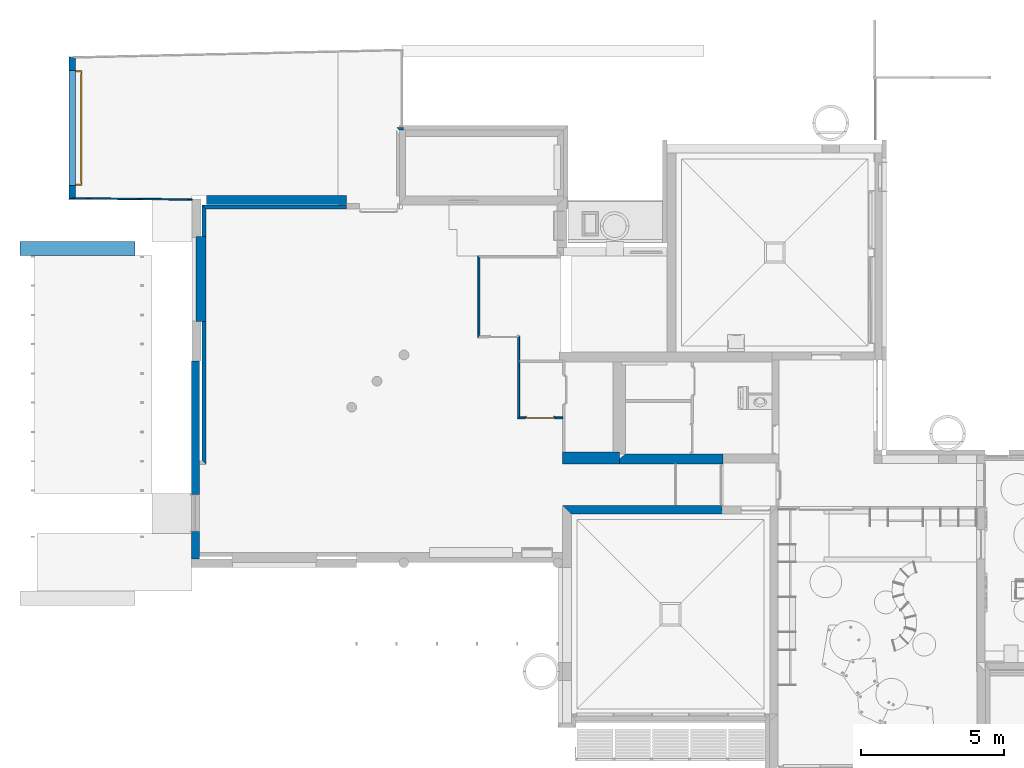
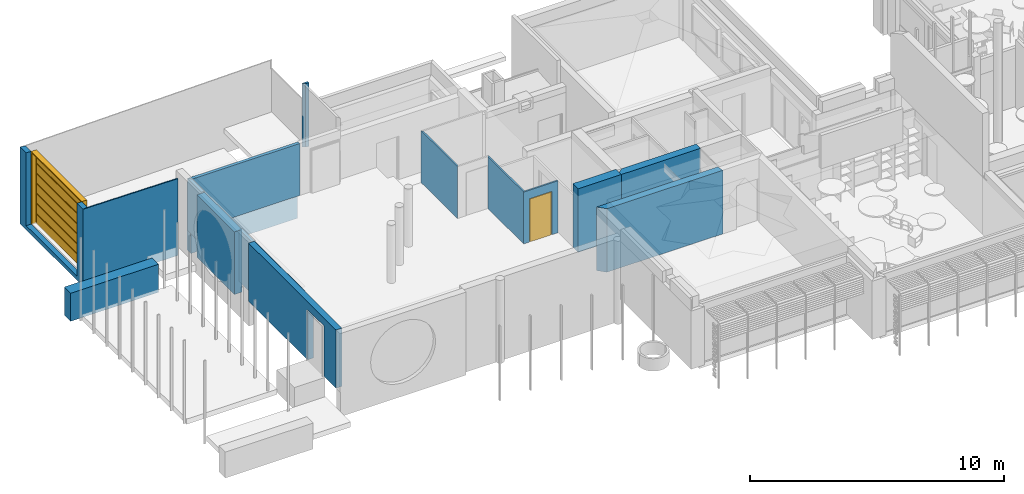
# One storey, part 21 of 64: 17 walls, 2 doors, 3 openings.
"""IFC2X3 building model written with IfcOpenShell, lengths in metres."""

import ifcopenshell
import ifcopenshell.guid

model = None  # the IFC model being written
_history = None  # IfcOwnerHistory: only IFC2X3 demands one
_inside = {}  # id of a spatial element -> (the spatial element, [elements in it])
_under = {}  # id of a project, library or spatial element -> (it, [spatial elements below it])
_declared = {}  # id of a project -> (the project, [libraries it declares])
_typed = {}  # id of a type object -> (the type object, [elements of that type])
_made_of = {}  # id of a material, layer set ... -> (it, [elements and type objects made of it])


def new_model(schema):
    """Start an empty IFC model of exactly this schema.

    Asked for "IFC4X3", IfcOpenShell would pick the latest addendum, in which some entities
    have other attributes; the version numbers below select the first issue.
    IFC2X3 requires an IfcOwnerHistory on every rooted entity: one is made here for all.
    """
    global model, _history
    if schema == "IFC4X3":
        model = ifcopenshell.file(schema_version=(4, 3, 0, 0))
    else:
        model = ifcopenshell.file(schema=schema)
    _inside.clear()
    _under.clear()
    _declared.clear()
    _typed.clear()
    _made_of.clear()
    _history = None
    if model.schema == "IFC2X3":
        org = make("IfcOrganization", Name="unknown")
        user = make(
            "IfcPersonAndOrganization",
            ThePerson=make("IfcPerson", FamilyName="unknown"),
            TheOrganization=org,
        )
        app = make(
            "IfcApplication",
            ApplicationDeveloper=org,
            Version="unknown",
            ApplicationFullName="unknown",
            ApplicationIdentifier="unknown",
        )
        _history = make(
            "IfcOwnerHistory",
            OwningUser=user,
            OwningApplication=app,
            ChangeAction="ADDED",
            CreationDate=0,
        )
    return model


def make(cls, **values):
    """One entity of the class cls with the attributes given. An attribute that is None is left unset."""
    return model.create_entity(
        cls, **{name: value for name, value in values.items() if value is not None}
    )


def entity(cls, *values):
    """Any entity or typed value of the class cls, its attributes in the order of the schema. None: left unset."""
    e = model.create_entity(cls)
    for i, value in enumerate(values):
        if value is not None:
            e[i] = value
    return e


def rooted(cls, **values):
    """An entity with a GlobalId (a new one), such as an element, a storey or a relation."""
    return make(cls, GlobalId=ifcopenshell.guid.new(), OwnerHistory=_history, **values)


def si_unit(unit_type, name, prefix=None):
    """IfcSIUnit, for example si_unit("LENGTHUNIT", "METRE", prefix="MILLI")."""
    return make("IfcSIUnit", UnitType=unit_type, Prefix=prefix, Name=name)


def converted_unit(unit_type, name, factor, base, dimensions=None, offset=None):
    """IfcConversionBasedUnit, such as the inch: factor (a typed value) times the base unit."""
    return make(
        "IfcConversionBasedUnit"
        if offset is None
        else "IfcConversionBasedUnitWithOffset",
        ConversionOffset=offset,
        Dimensions=None
        if dimensions is None
        else entity("IfcDimensionalExponents", *dimensions),
        UnitType=unit_type,
        Name=name,
        ConversionFactor=make(
            "IfcMeasureWithUnit", ValueComponent=factor, UnitComponent=base
        ),
    )


def derived_unit(unit_type, elements):
    """IfcDerivedUnit: a product of units, each with its exponent."""
    return make(
        "IfcDerivedUnit",
        Elements=[
            make("IfcDerivedUnitElement", Unit=unit, Exponent=power)
            for unit, power in elements
        ],
        UnitType=unit_type,
    )


def assignment(units):
    """IfcUnitAssignment: the units of a project."""
    return None if units is None else make("IfcUnitAssignment", Units=units)


def point(xyz):
    """IfcCartesianPoint."""
    return None if xyz is None else make("IfcCartesianPoint", Coordinates=xyz)


def direction(xyz):
    """IfcDirection."""
    return None if xyz is None else make("IfcDirection", DirectionRatios=xyz)


def frame(location, z_axis=None, x_axis=None):
    """IfcAxis2Placement3D, a coordinate frame: its origin and axes. An axis left out is left unset."""
    return make(
        "IfcAxis2Placement3D",
        Location=point(location),
        Axis=direction(z_axis),
        RefDirection=direction(x_axis),
    )


def frame_2d(location, x_axis=None):
    """IfcAxis2Placement2D, a coordinate frame in the plane: its origin and x axis."""
    return make(
        "IfcAxis2Placement2D", Location=point(location), RefDirection=direction(x_axis)
    )


def origin():
    """The frame at (0, 0, 0) with its axes left unset."""
    return frame((0.0, 0.0, 0.0))


def origin_2d_with_axis():
    """The frame at (0, 0) in the plane with the x axis (1, 0) written out."""
    return frame_2d((0.0, 0.0), x_axis=(1.0, 0.0))


def place(relative_to, where):
    """IfcLocalPlacement: puts the frame where relative to a parent placement (None: the world)."""
    return make(
        "IfcLocalPlacement", PlacementRelTo=relative_to, RelativePlacement=where
    )


def context(
    kind, dimensions, precision=None, world=None, true_north=None, identifier=None
):
    """IfcGeometricRepresentationContext, for example the 3D "Model" context."""
    return make(
        "IfcGeometricRepresentationContext",
        ContextIdentifier=identifier,
        ContextType=kind,
        CoordinateSpaceDimension=dimensions,
        Precision=precision,
        WorldCoordinateSystem=world,
        TrueNorth=true_north,
    )


def subcontext(parent, identifier, kind, view, scale=None):
    """IfcGeometricRepresentationSubContext, for example "Body" below "Model"."""
    return make(
        "IfcGeometricRepresentationSubContext",
        ContextIdentifier=identifier,
        ContextType=kind,
        ParentContext=parent,
        TargetScale=scale,
        TargetView=view,
    )


def project(units=None, contexts=None):
    """IfcProject with its units and contexts."""
    return rooted(
        "IfcProject",
        Name="project",
        RepresentationContexts=contexts,
        UnitsInContext=assignment(units),
    )


def spatial(cls, under=None, at=None, **own):
    """A site, building, storey or space (cls), placed at a placement, below another one or the project."""
    s = rooted(cls, ObjectPlacement=at, **own)
    if under is not None:
        _under.setdefault(under.id(), (under, []))[1].append(s)
    return s


def polyline(points):
    """IfcPolyline through the points."""
    return make("IfcPolyline", Points=[point(p) for p in points])


def profile(cls, at=None, kind="AREA", **sizes):
    """A parametric profile (cls). Its sizes go by their IFC names, for example OverallWidth=200.0."""
    return make(cls, ProfileType=kind, Position=at, **sizes)


def rectangle(**sizes):
    """IfcRectangleProfileDef."""
    return profile("IfcRectangleProfileDef", **sizes)


def outline(outer, holes=None, kind="AREA"):
    """IfcArbitraryClosedProfileDef: a profile drawn as a closed curve; with holes, ...WithVoids."""
    if holes is None:
        return make("IfcArbitraryClosedProfileDef", ProfileType=kind, OuterCurve=outer)
    return make(
        "IfcArbitraryProfileDefWithVoids",
        ProfileType=kind,
        OuterCurve=outer,
        InnerCurves=holes,
    )


def extrude(swept, where, along, depth):
    """IfcExtrudedAreaSolid: the profile swept, set in the frame where, extruded along a direction by depth."""
    return make(
        "IfcExtrudedAreaSolid",
        SweptArea=swept,
        Position=where,
        ExtrudedDirection=direction(along),
        Depth=depth,
    )


def faces_of(points, faces, orient=None, outer=None):
    """IfcFace entities. A face is a list of loops; a loop is a list of indices into points, from 0.

    orient and outer hold one flag for each loop. By default every Orientation is true, the
    first loop of a face is its IfcFaceOuterBound and the others are IfcFaceBound.
    """
    made = []
    for i, loops in enumerate(faces):
        bounds = []
        for j, loop in enumerate(loops):
            is_outer = j == 0 if outer is None else outer[i][j]
            bounds.append(
                make(
                    "IfcFaceOuterBound" if is_outer else "IfcFaceBound",
                    Bound=make("IfcPolyLoop", Polygon=[points[k] for k in loop]),
                    Orientation=True if orient is None else orient[i][j],
                )
            )
        made.append(make("IfcFace", Bounds=bounds))
    return made


def faceted_brep(points, faces, orient=None, outer=None, voids=None):
    """IfcFacetedBrep: a solid bounded by flat faces; with voids (closed shells), ...WithVoids."""
    shared = [point(p) for p in points]
    hull = make("IfcClosedShell", CfsFaces=faces_of(shared, faces, orient, outer))
    if voids is None:
        return make("IfcFacetedBrep", Outer=hull)
    return make(
        "IfcFacetedBrepWithVoids",
        Outer=hull,
        Voids=[
            make(cls, CfsFaces=faces_of(shared, fs, o, b)) for cls, fs, o, b in voids
        ],
    )


def shape(context_of_items, identifier, shape_type, items):
    """IfcShapeRepresentation: the items that make up one representation, for example the "Body"."""
    return make(
        "IfcShapeRepresentation",
        ContextOfItems=context_of_items,
        RepresentationIdentifier=identifier,
        RepresentationType=shape_type,
        Items=items,
    )


def source(mapping_origin, context_of_items, identifier, shape_type, items):
    """IfcRepresentationMap: a shape defined once, which mapped items show again and again."""
    return make(
        "IfcRepresentationMap",
        MappingOrigin=mapping_origin,
        MappedRepresentation=shape(context_of_items, identifier, shape_type, items),
    )


def transform(
    local_origin,
    x_axis=None,
    y_axis=None,
    z_axis=None,
    scale=None,
    scale2=None,
    scale3=None,
    uniform=True,
):
    """IfcCartesianTransformationOperator3D, or its non-uniform kind. x_axis, y_axis, z_axis: its Axis1, 2, 3."""
    if uniform:
        return make(
            "IfcCartesianTransformationOperator3D",
            Axis1=direction(x_axis),
            Axis2=direction(y_axis),
            LocalOrigin=point(local_origin),
            Scale=scale,
            Axis3=direction(z_axis),
        )
    return make(
        "IfcCartesianTransformationOperator3DnonUniform",
        Axis1=direction(x_axis),
        Axis2=direction(y_axis),
        LocalOrigin=point(local_origin),
        Scale=scale,
        Axis3=direction(z_axis),
        Scale2=scale2,
        Scale3=scale3,
    )


def mapped(mapping_source, mapping_target):
    """IfcMappedItem: shows the shape of a source again, moved by a transform."""
    return make(
        "IfcMappedItem", MappingSource=mapping_source, MappingTarget=mapping_target
    )


def material(Name=None, Category=None):
    """IfcMaterial."""
    return make("IfcMaterial", Name=Name, Category=Category)


def layer(
    of_material, thickness, ventilated=None, Name=None, Category=None, Priority=None
):
    """IfcMaterialLayer: one layer of a wall or slab, of a material (None: an air gap)."""
    return make(
        "IfcMaterialLayer",
        Material=of_material,
        LayerThickness=thickness,
        IsVentilated=ventilated,
        Name=Name,
        Category=Category,
        Priority=Priority,
    )


def layer_set(layers, Name=None):
    """IfcMaterialLayerSet."""
    return make("IfcMaterialLayerSet", MaterialLayers=layers, LayerSetName=Name)


def layer_usage(for_layer_set, set_direction, sense, offset, extent=None):
    """IfcMaterialLayerSetUsage: how a layer set lies in its element."""
    return make(
        "IfcMaterialLayerSetUsage",
        ForLayerSet=for_layer_set,
        LayerSetDirection=set_direction,
        DirectionSense=sense,
        OffsetFromReferenceLine=offset,
        ReferenceExtent=extent,
    )


def made_of(thing, what):
    """Note that an element or type object is made of a material, layer set ...; save() writes the relation."""
    if what is not None:
        _made_of.setdefault(what.id(), (what, []))[1].append(thing)
    return thing


def type_object(cls, material=None, **own):
    """A type object (cls), such as IfcWallType, which elements share."""
    return made_of(rooted(cls, **own), material)


def type_shapes(of_type, sources):
    """Give a type object the sources (RepresentationMaps) that its elements show as mapped items."""
    of_type.RepresentationMaps = sources


def element(
    cls,
    number,
    at=None,
    inside=None,
    cuts=None,
    type_object=None,
    material=None,
    context=None,
    identifier="Body",
    shape_type=None,
    held_by="IfcProductDefinitionShape",
    body=None,
    shapes=None,
    **own,
):
    """One element of the class cls, such as IfcWall. Its Tag is "e" and its number.

    at: its placement. inside: the storey or other place that contains it. cuts: it is an
    opening in that element (IfcRelVoidsElement). A single representation is given by context,
    identifier, shape_type and body (its items); several are given by shapes. held_by: the class
    of the entity that holds the representations. save() writes the other relations.
    """
    e = rooted(cls, Tag="e%d" % number, ObjectPlacement=at, **own)
    if body is not None:
        shapes = [shape(context, identifier, shape_type, body)]
    if shapes is not None:
        e.Representation = make(held_by, Representations=shapes)
    if inside is not None:
        _inside.setdefault(inside.id(), (inside, []))[1].append(e)
    if cuts is not None:
        rooted(
            "IfcRelVoidsElement", RelatingBuildingElement=cuts, RelatedOpeningElement=e
        )
    if type_object is not None:
        _typed.setdefault(type_object.id(), (type_object, []))[1].append(e)
    return made_of(e, material)


def fill(opening, filler):
    """IfcRelFillsElement: the door or window that sits in an opening."""
    return rooted(
        "IfcRelFillsElement",
        RelatingOpeningElement=opening,
        RelatedBuildingElement=filler,
    )


def aggregate(whole, parts):
    """IfcRelAggregates: a whole, such as a stair, and the parts it consists of."""
    return rooted("IfcRelAggregates", RelatingObject=whole, RelatedObjects=parts)


def save(model, path):
    """Write the relations noted so far, then the file.

    IfcRelAggregates (storeys below a building ...), IfcRelContainedInSpatialStructure (elements
    in a storey), IfcRelDefinesByType, IfcRelAssociatesMaterial and IfcRelDeclares: one each for
    every whole, place, type object, material and project.
    """
    for whole, parts in _under.values():
        aggregate(whole, parts)
    for where, things in _inside.values():
        rooted(
            "IfcRelContainedInSpatialStructure",
            RelatedElements=things,
            RelatingStructure=where,
        )
    for kind, things in _typed.values():
        rooted("IfcRelDefinesByType", RelatedObjects=things, RelatingType=kind)
    for what, things in _made_of.values():
        rooted("IfcRelAssociatesMaterial", RelatedObjects=things, RelatingMaterial=what)
    for by, libraries in _declared.values():
        rooted("IfcRelDeclares", RelatingContext=by, RelatedDefinitions=libraries)
    model.write(path)


model = new_model("IFC2X3")

# Units and contexts
model_context = context("Model", 3, precision=1e-05, world=origin(), true_north=direction((6.123031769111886e-17, 1.0)))
body_context = subcontext(model_context, "Body", "Model", "MODEL_VIEW")
ifc_project = project(units=[si_unit("LENGTHUNIT", "METRE"), si_unit("AREAUNIT", "SQUARE_METRE"), si_unit("VOLUMEUNIT", "CUBIC_METRE"), converted_unit("PLANEANGLEUNIT", "DEGREE", entity("IfcRatioMeasure", 0.017453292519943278), si_unit("PLANEANGLEUNIT", "RADIAN"), dimensions=[0, 0, 0, 0, 0, 0, 0]), si_unit("MASSUNIT", "GRAM", prefix="KILO"), derived_unit("MASSDENSITYUNIT", [(si_unit("MASSUNIT", "GRAM", prefix="KILO"), 1), (si_unit("LENGTHUNIT", "METRE"), -3)]), derived_unit("MOMENTOFINERTIAUNIT", [(si_unit("LENGTHUNIT", "METRE"), 4)]), si_unit("TIMEUNIT", "SECOND"), si_unit("FREQUENCYUNIT", "HERTZ"), si_unit("THERMODYNAMICTEMPERATUREUNIT", "DEGREE_CELSIUS"), derived_unit("THERMALTRANSMITTANCEUNIT", [(si_unit("MASSUNIT", "GRAM", prefix="KILO"), 1), (si_unit("THERMODYNAMICTEMPERATUREUNIT", "KELVIN"), -1), (si_unit("TIMEUNIT", "SECOND"), -3)]), derived_unit("THERMALCONDUCTANCEUNIT", [(si_unit("MASSUNIT", "GRAM", prefix="KILO"), 1), (si_unit("LENGTHUNIT", "METRE"), 1), (si_unit("THERMODYNAMICTEMPERATUREUNIT", "KELVIN"), -1), (si_unit("TIMEUNIT", "SECOND"), -3)]), derived_unit("VOLUMETRICFLOWRATEUNIT", [(si_unit("LENGTHUNIT", "METRE"), 3), (si_unit("TIMEUNIT", "SECOND"), -1)]), derived_unit("MASSFLOWRATEUNIT", [(si_unit("MASSUNIT", "GRAM", prefix="KILO"), 1), (si_unit("TIMEUNIT", "SECOND"), -1)]), derived_unit("ROTATIONALFREQUENCYUNIT", [(si_unit("TIMEUNIT", "SECOND"), -1)]), si_unit("ELECTRICCURRENTUNIT", "AMPERE"), si_unit("ELECTRICVOLTAGEUNIT", "VOLT"), si_unit("POWERUNIT", "WATT"), si_unit("FORCEUNIT", "NEWTON", prefix="KILO"), si_unit("ILLUMINANCEUNIT", "LUX"), si_unit("LUMINOUSFLUXUNIT", "LUMEN"), si_unit("LUMINOUSINTENSITYUNIT", "CANDELA"), derived_unit("USERDEFINED", [(si_unit("MASSUNIT", "GRAM", prefix="KILO"), -1), (si_unit("LENGTHUNIT", "METRE"), -2), (si_unit("TIMEUNIT", "SECOND"), 3), (si_unit("LUMINOUSFLUXUNIT", "LUMEN"), 1)]), derived_unit("USERDEFINED", [(si_unit("MASSUNIT", "GRAM", prefix="KILO"), 1), (si_unit("LENGTHUNIT", "METRE"), 3), (si_unit("TIMEUNIT", "SECOND"), -3), (si_unit("ELECTRICCURRENTUNIT", "AMPERE"), -2)]), derived_unit("USERDEFINED", [(si_unit("LENGTHUNIT", "METRE"), 2), (si_unit("TIMEUNIT", "SECOND"), -2)]), derived_unit("SOUNDPOWERUNIT", [(si_unit("MASSUNIT", "GRAM", prefix="KILO"), 1), (si_unit("LENGTHUNIT", "METRE"), 2), (si_unit("TIMEUNIT", "SECOND"), -3)]), derived_unit("SOUNDPRESSUREUNIT", [(si_unit("MASSUNIT", "GRAM", prefix="KILO"), 1), (si_unit("LENGTHUNIT", "METRE"), -1), (si_unit("TIMEUNIT", "SECOND"), -2)]), derived_unit("LINEARVELOCITYUNIT", [(si_unit("LENGTHUNIT", "METRE"), 1), (si_unit("TIMEUNIT", "SECOND"), -1)]), si_unit("PRESSUREUNIT", "PASCAL"), derived_unit("USERDEFINED", [(si_unit("LENGTHUNIT", "METRE"), -2), (si_unit("MASSUNIT", "GRAM", prefix="KILO"), 1), (si_unit("TIMEUNIT", "SECOND"), -2)]), derived_unit("LINEARFORCEUNIT", [(si_unit("MASSUNIT", "GRAM", prefix="KILO"), 1), (si_unit("LENGTHUNIT", "METRE"), 1), (si_unit("TIMEUNIT", "SECOND"), -2), (si_unit("LENGTHUNIT", "METRE"), -1)]), derived_unit("PLANARFORCEUNIT", [(si_unit("MASSUNIT", "GRAM", prefix="KILO"), 1), (si_unit("LENGTHUNIT", "METRE"), 1), (si_unit("TIMEUNIT", "SECOND"), -2), (si_unit("LENGTHUNIT", "METRE"), -2)]), derived_unit("SPECIFICHEATCAPACITYUNIT", [(si_unit("LENGTHUNIT", "METRE"), 2), (si_unit("TIMEUNIT", "SECOND"), -2), (si_unit("THERMODYNAMICTEMPERATUREUNIT", "KELVIN"), -1)]), derived_unit("VAPORPERMEABILITYUNIT", [(si_unit("TIMEUNIT", "SECOND"), 1), (si_unit("LENGTHUNIT", "METRE"), -1)]), derived_unit("DYNAMICVISCOSITYUNIT", [(si_unit("MASSUNIT", "GRAM", prefix="KILO"), 1), (si_unit("LENGTHUNIT", "METRE"), -1), (si_unit("TIMEUNIT", "SECOND"), -1)]), derived_unit("THERMALEXPANSIONCOEFFICIENTUNIT", [(si_unit("THERMODYNAMICTEMPERATUREUNIT", "KELVIN"), -1)])], contexts=[model_context])

# Site, building, storey
site_placement = place(None, origin())
site = spatial("IfcSite", under=ifc_project, at=site_placement, Name="Default", CompositionType="ELEMENT")
building_placement = place(site_placement, origin())
building = spatial("IfcBuilding", under=site, at=building_placement, CompositionType="ELEMENT")
storey_placement = place(building_placement, origin())
storey = spatial("IfcBuildingStorey", under=building, at=storey_placement, Name="REZ-DE-CHAUSSÉE", CompositionType="ELEMENT", Elevation=0.0)

# Walls
ifc_material_1 = material(Name="Appareillage - Pierre taillé")
ifc_layer_1 = layer(ifc_material_1, 0.29999999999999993)
ifc_layer_set_1 = layer_set([ifc_layer_1], Name="Mur de base:Struct. - Pierre 300")
ifc_layer_usage_1 = layer_usage(ifc_layer_set_1, "AXIS2", "NEGATIVE", 0.14999999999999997)
wall_type_1 = type_object("IfcWallType", Name="Mur de base:Struct. - Pierre 300", PredefinedType="STANDARD", material=ifc_layer_set_1)
wall_1_placement = place(storey_placement, frame((90.2507522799, 24.1872094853, -1.1999999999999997)))
element("IfcWallStandardCase", 1, at=wall_1_placement, inside=storey, type_object=wall_type_1, material=ifc_layer_usage_1, Name="MurExt-009", ObjectType="Mur de base:Struct. - Pierre 300", context=body_context, shape_type="SweptSolid", body=[
    extrude(rectangle(XDim=4.869999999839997, YDim=0.3000000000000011, at=frame_2d((2.4349999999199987, 0.0), x_axis=(-1.0, 0.0))), origin(), (0.0, 0.0, 1.0), 3.27),
])
ifc_layer_2 = layer(ifc_material_1, 0.31)
ifc_layer_set_2 = layer_set([ifc_layer_2], Name="Mur de base:Struct. - Pierre 310")
ifc_layer_usage_2 = layer_usage(ifc_layer_set_2, "AXIS2", "NEGATIVE", 0.155)
wall_type_2 = type_object("IfcWallType", Name="Mur de base:Struct. - Pierre 310", PredefinedType="STANDARD", material=ifc_layer_set_2)
wall_2_placement = place(storey_placement, frame((102.66075227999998, 13.3922094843, 0.0)))
element("IfcWallStandardCase", 2, at=wall_2_placement, inside=storey, type_object=wall_type_2, material=ifc_layer_usage_2, Name="MurExt-006", ObjectType="Mur de base:Struct. - Pierre 310", context=body_context, shape_type="SweptSolid", body=[
    extrude(outline(polyline([(5.579999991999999, -0.15500000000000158), (5.52999999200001, 0.15499999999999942), (0.0, 0.15499999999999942), (0.3000000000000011, -0.15500000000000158), (5.579999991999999, -0.15500000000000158)])), origin(), (0.0, 0.0, 1.0), 3.06),
])
ifc_material_2 = material(Name="Bois - Pin granuleux horizontal")
ifc_layer_3 = layer(ifc_material_2, 0.031999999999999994)
ifc_material_3 = material(Name="Air - Vide d'air")
ifc_layer_4 = layer(ifc_material_3, 0.054)
ifc_material_4 = material(Name="Bois - Panneaux de particules")
ifc_layer_5 = layer(ifc_material_4, 0.022)
ifc_material_5 = material(Name="Isolation - Fibre de verre")
ifc_layer_6 = layer(ifc_material_5, 0.12)
ifc_layer_7 = layer(ifc_material_4, 0.022)
ifc_layer_8 = layer(ifc_material_5, 0.08699999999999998)
ifc_material_6 = material(Name="Plâtre - Plaques de plâtre")
ifc_layer_9 = layer(ifc_material_6, 0.013)
ifc_layer_set_3 = layer_set([ifc_layer_3, ifc_layer_4, ifc_layer_5, ifc_layer_6, ifc_layer_7, ifc_layer_8, ifc_layer_9], Name="Mur de base:ABA MOB ITI bardage 350")
ifc_layer_usage_3 = layer_usage(ifc_layer_set_3, "AXIS2", "NEGATIVE", 0.17500000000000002)
wall_type_3 = type_object("IfcWallType", Name="Mur de base:ABA MOB ITI bardage 350", PredefinedType="STANDARD", material=ifc_layer_set_3)
for number, where, z_axis, x_axis, name in (
    (3, (90.05575227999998, 19.947209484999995, -0.5599999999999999), (0.0, 0.0, 1.0), (0.0, 1.0, 0.0), "MurExt-005"),
    (4, (90.05575227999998, 19.947209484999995, -0.5599999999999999), (0.0, 0.0, 1.0), (0.0, 1.0, 0.0), "MurExt-005"),
):
    element("IfcWallStandardCase", number, at=place(storey_placement, frame(where, z_axis=z_axis, x_axis=x_axis)), inside=storey, type_object=wall_type_3, material=ifc_layer_usage_3, Name=name, ObjectType="Mur de base:ABA MOB ITI bardage 350", context=body_context, shape_type="SweptSolid", body=[
        extrude(rectangle(XDim=2.9600000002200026, YDim=0.34999999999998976, at=frame_2d((1.4800000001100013, 0.0), x_axis=(-1.0, 0.0))), origin(), (0.0, 0.0, 1.0), 3.01),
    ])

# Wall, opening
ifc_layer_10 = layer(ifc_material_2, 0.02)
ifc_layer_11 = layer(ifc_material_4, 0.0125)
ifc_layer_12 = layer(ifc_material_5, 0.145)
ifc_layer_13 = layer(ifc_material_4, 0.0125)
ifc_layer_14 = layer(ifc_material_5, 0.067)
ifc_layer_15 = layer(ifc_material_6, 0.013)
ifc_layer_set_4 = layer_set([ifc_layer_10, ifc_layer_11, ifc_layer_12, ifc_layer_13, ifc_layer_14, ifc_layer_15], Name="Mur de base:ABA MOB ITI costière 270")
ifc_layer_usage_4 = layer_usage(ifc_layer_set_4, "AXIS2", "NEGATIVE", 0.13499999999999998)
wall_type_4 = type_object("IfcWallType", Name="Mur de base:ABA MOB ITI costière 270", PredefinedType="STANDARD", material=ifc_layer_set_4)
wall_3_placement = place(storey_placement, frame((89.8657522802, 11.677209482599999, 0.0), z_axis=(0.0, 0.0, 1.0), x_axis=(0.0, 1.0, 0.0)))
wall_3 = element("IfcWallStandardCase", 5, at=wall_3_placement, inside=storey, type_object=wall_type_4, material=ifc_layer_usage_4, Name="MurExt-007", ObjectType="Mur de base:ABA MOB ITI costière 270", context=body_context, shape_type="SweptSolid", body=[
    extrude(rectangle(XDim=6.9000000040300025, YDim=0.2700000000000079, at=frame_2d((3.4500000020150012, 0.0), x_axis=(-1.0, 0.0))), origin(), (0.0, 0.0, 1.0), 2.8),
])
opening_1_placement = place(wall_3_placement, frame((-11.677209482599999, 89.8657522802, 0.0), z_axis=(0.0, 0.0, 1.0), x_axis=(0.0, -1.0, 0.0)))
element("IfcOpeningElement", 6, at=opening_1_placement, cuts=wall_3, Name="MurExt-007", ObjectType="Opening", context=body_context, shape_type="SweptSolid", body=[
    extrude(rectangle(XDim=2.4199999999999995, YDim=1.2900000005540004, at=origin_2d_with_axis()), frame((90.2192522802, 13.28220948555, 1.2099999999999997), z_axis=(-1.0, 0.0, 0.0), x_axis=(0.0, 0.0, -1.0)), (0.0, 0.0, 1.0), 0.7069999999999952),
])

# Walls
ifc_layer_16 = layer(ifc_material_1, 0.34)
ifc_layer_set_5 = layer_set([ifc_layer_16], Name="Mur de base:Struct. - Pierre 340")
ifc_layer_usage_5 = layer_usage(ifc_layer_set_5, "AXIS2", "NEGATIVE", 0.17)
wall_type_5 = type_object("IfcWallType", Name="Mur de base:Struct. - Pierre 340", PredefinedType="STANDARD", material=ifc_layer_set_5)
wall_4_placement = place(storey_placement, frame((104.42075227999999, 15.157209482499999, 0.0)))
element("IfcWallStandardCase", 7, at=wall_4_placement, inside=storey, type_object=wall_type_5, material=ifc_layer_usage_5, Name="MurExt-003", ObjectType="Mur de base:Struct. - Pierre 340", context=body_context, shape_type="SweptSolid", body=[
    extrude(outline(polyline([(3.819999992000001, -0.17000000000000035), (3.819999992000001, -0.14000000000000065), (3.819999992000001, 0.17000000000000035), (2.7900000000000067, 0.17000000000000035), (2.7100000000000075, 0.17000000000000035), (0.4200000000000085, 0.17000000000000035), (0.0, -0.17000000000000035), (3.819999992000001, -0.17000000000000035)])), origin(), (0.0, 0.0, 1.0), 3.06),
])
ifc_layer_17 = layer(ifc_material_1, 0.41999999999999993)
ifc_layer_set_6 = layer_set([ifc_layer_17], Name="Mur de base:Struct. - Pierre 420")
ifc_layer_usage_6 = layer_usage(ifc_layer_set_6, "AXIS2", "NEGATIVE", 0.20999999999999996)
wall_type_6 = type_object("IfcWallType", Name="Mur de base:Struct. - Pierre 420", PredefinedType="STANDARD", material=ifc_layer_set_6)
wall_5_placement = place(storey_placement, frame((104.63075228, 15.1972094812, 0.0), z_axis=(0.0, 0.0, 1.0), x_axis=(-1.0, 0.0, 0.0)))
element("IfcWallStandardCase", 8, at=wall_5_placement, inside=storey, type_object=wall_type_6, material=ifc_layer_usage_6, Name="MurExt-003", ObjectType="Mur de base:Struct. - Pierre 420", context=body_context, shape_type="SweptSolid", body=[
    extrude(rectangle(XDim=1.9700000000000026, YDim=0.4199999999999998, at=frame_2d((0.9850000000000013, 0.0), x_axis=(-1.0, 0.0))), origin(), (0.0, 0.0, 1.0), 3.06),
])
ifc_material_7 = material(Name="Métal - Fer")
ifc_layer_18 = layer(ifc_material_7, 0.05)
ifc_layer_set_7 = layer_set([ifc_layer_18], Name="Mur de base:Métal - Fer 50")
ifc_layer_usage_7 = layer_usage(ifc_layer_set_7, "AXIS2", "NEGATIVE", 0.025)
wall_type_7 = type_object("IfcWallType", Name="Mur de base:Métal - Fer 50", PredefinedType="STANDARD", material=ifc_layer_set_7)
wall_6_placement = place(storey_placement, frame((89.75099796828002, 24.202208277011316, -1.2), z_axis=(0.0, 0.0, 1.0), x_axis=(-0.9999517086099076, 0.009827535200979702, 0.0)))
element("IfcWallStandardCase", 9, at=wall_6_placement, inside=storey, type_object=wall_type_7, material=ifc_layer_usage_7, Name="MurExt-011", ObjectType="Mur de base:Métal - Fer 50", context=body_context, shape_type="SweptSolid", body=[
    extrude(outline(polyline([(1.9273157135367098, -0.44544477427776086), (2.162218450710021, -0.4454447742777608), (-2.0396858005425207, 0.4699241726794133), (-2.0498483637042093, 0.42096537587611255), (1.9273157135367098, -0.44544477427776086)])), frame((2.0929696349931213, 0.0, 0.0), z_axis=(0.0, 0.0, 1.0), x_axis=(0.9770840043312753, 0.21285405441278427, 0.0)), (0.0, 0.0, 1.0), 3.6999999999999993),
])

# Wall, opening, door
ifc_layer_19 = layer(ifc_material_1, 0.23)
ifc_layer_set_8 = layer_set([ifc_layer_19], Name="Mur de base:Struct. - Pierre 230")
ifc_layer_usage_8 = layer_usage(ifc_layer_set_8, "AXIS2", "NEGATIVE", 0.115)
wall_type_8 = type_object("IfcWallType", Name="Mur de base:Struct. - Pierre 230", PredefinedType="STANDARD", material=ifc_layer_set_8)
wall_7_placement = place(storey_placement, frame((85.5655065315, 24.219472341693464, -1.2), z_axis=(0.0, 0.0, 1.0), x_axis=(0.0, 1.0, 0.0)))
wall_7 = element("IfcWallStandardCase", 10, at=wall_7_placement, inside=storey, type_object=wall_type_8, material=ifc_layer_usage_8, Name="MurExt-012", ObjectType="Mur de base:Struct. - Pierre 230", context=body_context, shape_type="SweptSolid", body=[
    extrude(outline(polyline([(4.917718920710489, -0.11499999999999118), (4.96255024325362, 0.11500000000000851), (0.0, 0.11500000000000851), (0.04774197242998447, -0.11499999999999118), (4.917718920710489, -0.11499999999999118)])), origin(), (0.0, 0.0, 1.0), 3.7),
])
opening_2_placement = place(wall_7_placement, frame((0.47819942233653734, 0.35190000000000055, 0.19999999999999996), z_axis=(0.0, 0.0, 1.0), x_axis=(0.0, -1.0, 0.0)))
opening_2 = element("IfcOpeningElement", 11, at=opening_2_placement, cuts=wall_7, Name="MurExt-012", ObjectType="Opening", context=body_context, shape_type="Brep", body=[
    faceted_brep([(0.0, 0.0, 0.0), (0.0, 0.0, 3.4999999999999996), (0.0, 4.0, 3.4999999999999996), (0.0, 4.0, 0.0), (0.703799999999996, 0.0, 0.0), (0.703799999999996, 4.0, 0.0), (0.703799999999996, 4.0, 3.4999999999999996), (0.703799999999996, 0.0, 3.4999999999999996), (0.6923499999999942, 0.0, 3.4999999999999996), (0.6923499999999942, 0.0, 7.0), (0.646449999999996, 0.0, 7.0), (0.646449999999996, 0.0, 3.4999999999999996), (0.646449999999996, 4.0, 3.4999999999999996), (0.646449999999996, 4.0, 7.0), (0.6923499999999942, 4.0, 7.0), (0.6923499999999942, 4.0, 3.4999999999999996)], [[[0, 1, 2, 3]], [[4, 5, 6, 7]], [[0, 4, 7, 8, 9, 10, 11, 1]], [[1, 11, 12, 2]], [[2, 12, 13, 14, 15, 6, 5, 3]], [[3, 5, 4, 0]], [[12, 11, 10, 13]], [[8, 15, 14, 9]], [[10, 9, 14, 13]], [[6, 15, 8, 7]]]),
])
ifc_material_8 = material(Name="Peinture - Anthracite")
door_style_1 = type_object("IfcDoorStyle", Name="Por-002", ConstructionType="NOTDEFINED", OperationType="ROLLINGUP", ParameterTakesPrecedence=False, Sizeable=False, material=ifc_material_8)
shared_shape_1 = source(origin(), body_context, "Body", "SweptSolid", [
    extrude(rectangle(XDim=0.019999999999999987, YDim=3.8, at=origin_2d_with_axis()), frame((2.0, 0.6513999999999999, 2.96428571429), z_axis=(0.0, 0.0, 1.0), x_axis=(0.0, 1.0, 0.0)), (0.0, 0.0, 1.0), 0.43571428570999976),
    extrude(rectangle(XDim=0.019999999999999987, YDim=3.8, at=origin_2d_with_axis()), frame((2.0, 0.6513999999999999, 2.47857142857), z_axis=(0.0, 0.0, 1.0), x_axis=(0.0, 1.0, 0.0)), (0.0, 0.0, 1.0), 0.43571428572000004),
    extrude(rectangle(XDim=0.019999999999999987, YDim=3.8, at=origin_2d_with_axis()), frame((2.0, 0.6513999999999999, 1.99285714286), z_axis=(0.0, 0.0, 1.0), x_axis=(0.0, 1.0, 0.0)), (0.0, 0.0, 1.0), 0.43571428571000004),
    extrude(rectangle(XDim=0.019999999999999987, YDim=3.8, at=origin_2d_with_axis()), frame((2.0, 0.6513999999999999, 1.50714285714), z_axis=(0.0, 0.0, 1.0), x_axis=(0.0, 1.0, 0.0)), (0.0, 0.0, 1.0), 0.43571428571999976),
    extrude(rectangle(XDim=0.019999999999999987, YDim=3.8, at=origin_2d_with_axis()), frame((2.0, 0.6513999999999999, 1.02142857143), z_axis=(0.0, 0.0, 1.0), x_axis=(0.0, 1.0, 0.0)), (0.0, 0.0, 1.0), 0.43571428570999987),
    extrude(rectangle(XDim=0.019999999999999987, YDim=3.8, at=origin_2d_with_axis()), frame((2.0, 0.6513999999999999, 0.535714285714), z_axis=(0.0, 0.0, 1.0), x_axis=(0.0, 1.0, 0.0)), (0.0, 0.0, 1.0), 0.4357142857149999),
    extrude(rectangle(XDim=0.019999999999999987, YDim=3.8, at=origin_2d_with_axis()), frame((2.0, 0.6513999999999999, 0.050000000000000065), z_axis=(0.0, 0.0, 1.0), x_axis=(0.0, 1.0, 0.0)), (0.0, 0.0, 1.0), 0.43571428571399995),
    extrude(rectangle(XDim=0.030000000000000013, YDim=3.9, at=frame_2d((-3.382710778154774e-17, 0.0), x_axis=(1.0, 0.0))), frame((2.0, 0.6764, 0.0), z_axis=(0.0, 0.0, 1.0), x_axis=(0.0, 1.0, 0.0)), (0.0, 0.0, 1.0), 3.4499999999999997),
    extrude(rectangle(XDim=0.05, YDim=3.9999999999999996, at=frame_2d((0.008333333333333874, 0.0), x_axis=(1.0, 0.0))), frame((2.0, 0.46689999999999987, 3.466666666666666), z_axis=(0.0, 1.0, 0.0), x_axis=(0.0, 0.0, 1.0)), (0.0, 0.0, 1.0), 0.22999999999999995),
    extrude(rectangle(XDim=0.05, YDim=0.22999999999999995, at=frame_2d((-2.706168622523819e-16, 0.0), x_axis=(1.0, 0.0))), frame((3.975000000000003, 0.5818999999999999, 0.0), z_axis=(0.0, 0.0, 1.0), x_axis=(-1.0, 0.0, 0.0)), (0.0, 0.0, 1.0), 3.4499999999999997),
    extrude(rectangle(XDim=0.05, YDim=0.22999999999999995, at=frame_2d((2.706168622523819e-16, 0.0), x_axis=(1.0, 0.0))), frame((0.025000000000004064, 0.5818999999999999, 0.0), z_axis=(0.0, 0.0, 1.0), x_axis=(-1.0, 0.0, 0.0)), (0.0, 0.0, 1.0), 3.4499999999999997),
])
type_shapes(door_style_1, [shared_shape_1])
door_1_placement = place(opening_2_placement, frame((0.0, 4.0, 0.0), z_axis=(0.0, 0.0, 1.0), x_axis=(0.0, -1.0, 0.0)))
door_1 = element("IfcDoor", 12, at=door_1_placement, inside=storey, type_object=door_style_1, material=ifc_material_8, Name="Por-002 17063:Por-002 17063", ObjectType="Por-002 17063:Por-002 17063", OverallHeight=3.5000000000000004, OverallWidth=4.0000000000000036, context=body_context, shape_type="MappedRepresentation", body=[
    mapped(shared_shape_1, transform((0.0, 0.0, 0.0), scale=1.0)),
])
fill(opening_2, door_1)

# Walls
ifc_layer_20 = layer(ifc_material_6, 0.013)
ifc_layer_21 = layer(ifc_material_5, 0.127)
ifc_layer_set_9 = layer_set([ifc_layer_20, ifc_layer_21], Name="Mur de base:ABA doublage 14cm 140")
ifc_layer_usage_9 = layer_usage(ifc_layer_set_9, "AXIS2", "NEGATIVE", 0.07)
wall_type_9 = type_object("IfcWallType", Name="Mur de base:ABA doublage 14cm 140", PredefinedType="STANDARD", material=ifc_layer_set_9)
wall_8_placement = place(storey_placement, frame((90.1607522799, 24.0072094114, 0.0), z_axis=(0.0, 0.0, 1.0), x_axis=(0.0, -1.0, 0.0)))
element("IfcWallStandardCase", 13, at=wall_8_placement, inside=storey, type_object=wall_type_9, material=ifc_layer_usage_9, Name="MurExt-023", ObjectType="Mur de base:ABA doublage 14cm 140", context=body_context, shape_type="SweptSolid", body=[
    extrude(outline(polyline([(1.099999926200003, -0.07000000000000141), (1.099999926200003, 0.07000000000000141), (0.14000000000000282, 0.07000000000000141), (0.0, -0.07000000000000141), (1.099999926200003, -0.07000000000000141)])), origin(), (0.0, 0.0, 1.0), 2.4999999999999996),
])
wall_9_placement = place(storey_placement, frame((90.1607522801, 19.94720948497, 0.0), z_axis=(0.0, 0.0, 1.0), x_axis=(0.0, -1.0, 0.0)))
element("IfcWallStandardCase", 14, at=wall_9_placement, inside=storey, type_object=wall_type_9, material=ifc_layer_usage_9, Name="MurExt-026", ObjectType="Mur de base:ABA doublage 14cm 140", context=body_context, shape_type="SweptSolid", body=[
    extrude(outline(polyline([(4.830000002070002, -0.07000000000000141), (4.970000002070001, 0.07000000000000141), (0.0, 0.07000000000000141), (0.0, -0.07000000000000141), (4.830000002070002, -0.07000000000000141)])), origin(), (0.0, 0.0, 1.0), 2.4999999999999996),
])
wall_10_placement = place(storey_placement, frame((95.12075227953, 23.9372094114, 0.0), z_axis=(0.0, 0.0, 1.0), x_axis=(-1.0, 0.0, 0.0)))
element("IfcWallStandardCase", 15, at=wall_10_placement, inside=storey, type_object=wall_type_9, material=ifc_layer_usage_9, Name="MurExt-024", ObjectType="Mur de base:ABA doublage 14cm 140", context=body_context, shape_type="SweptSolid", body=[
    extrude(outline(polyline([(5.029999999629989, -0.06999999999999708), (4.889999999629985, 0.07000000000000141), (0.0, 0.07000000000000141), (0.0, -0.06999999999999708), (5.029999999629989, -0.06999999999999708)])), origin(), (0.0, 0.0, 1.0), 2.4999999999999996),
])
ifc_layer_22 = layer(ifc_material_1, 0.07)
ifc_layer_set_10 = layer_set([ifc_layer_22], Name="Mur de base:Struct. - Pierre 70")
ifc_layer_usage_10 = layer_usage(ifc_layer_set_10, "AXIS2", "NEGATIVE", 0.035)
wall_type_10 = type_object("IfcWallType", Name="Mur de base:Struct. - Pierre 70", PredefinedType="STANDARD", material=ifc_layer_set_10)
wall_11_placement = place(storey_placement, frame((99.73575216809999, 19.377209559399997, 0.0), z_axis=(0.0, 0.0, 1.0), x_axis=(0.0, 1.0, 0.0)))
element("IfcWallStandardCase", 16, at=wall_11_placement, inside=storey, type_object=wall_type_10, material=ifc_layer_usage_10, Name="MurExt-016", ObjectType="Mur de base:Struct. - Pierre 70", context=body_context, shape_type="SweptSolid", body=[
    extrude(outline(polyline([(2.7899999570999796, -0.03500000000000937), (2.8599999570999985, 0.034999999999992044), (0.0, 0.034999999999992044), (0.07000000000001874, -0.03500000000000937), (2.7899999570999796, -0.03500000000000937)])), origin(), (0.0, 0.0, 1.0), 2.4999999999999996),
])
wall_12_placement = place(storey_placement, frame((101.12575237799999, 16.5572093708, 0.0), z_axis=(0.0, 0.0, 1.0), x_axis=(0.0, 1.0, 0.0)))
element("IfcWallStandardCase", 17, at=wall_12_placement, inside=storey, type_object=wall_type_10, material=ifc_layer_usage_10, Name="MurExt-014", ObjectType="Mur de base:Struct. - Pierre 70", context=body_context, shape_type="SweptSolid", body=[
    extrude(outline(polyline([(2.8900001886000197, -0.03500000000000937), (2.820000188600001, 0.034999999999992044), (0.0, 0.034999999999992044), (0.07000000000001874, -0.03500000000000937), (1.9600001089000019, -0.03500000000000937), (2.050000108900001, -0.03500000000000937), (2.8900001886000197, -0.03500000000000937)])), origin(), (0.0, 0.0, 1.0), 2.4999999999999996),
])

# Wall, opening, door
wall_13_placement = place(storey_placement, frame((102.66075227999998, 16.5922093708, 0.0), z_axis=(0.0, 0.0, 1.0), x_axis=(-1.0, 0.0, 0.0)))
wall_13 = element("IfcWallStandardCase", 18, at=wall_13_placement, inside=storey, type_object=wall_type_10, material=ifc_layer_usage_10, Name="MurExt-013", ObjectType="Mur de base:Struct. - Pierre 70", context=body_context, shape_type="SweptSolid", body=[
    extrude(outline(polyline([(0.0, -0.03499999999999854), (1.4999999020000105, -0.03499999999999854), (1.5699999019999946, 0.035000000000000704), (0.0, 0.035000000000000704), (0.0, -0.03499999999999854)])), origin(), (0.0, 0.0, 1.0), 2.4999999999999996),
])
opening_3_placement = place(wall_13_placement, frame((102.66075227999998, 16.5922093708, 0.0), z_axis=(0.0, 0.0, 1.0), x_axis=(-1.0, 0.0, 0.0)))
opening_3 = element("IfcOpeningElement", 19, at=opening_3_placement, cuts=wall_13, Name="MurExt-013", ObjectType="Opening", context=body_context, shape_type="SweptSolid", body=[
    extrude(rectangle(XDim=2.09, YDim=1.0300000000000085, at=frame_2d((0.0, 0.0), x_axis=(0.0, 1.0))), frame((101.870752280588, 16.663609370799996, 1.045), z_axis=(0.0, -1.0, 0.0), x_axis=(-1.0, 0.0, 0.0)), (0.0, 0.0, 1.0), 0.14279999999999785),
])
ifc_material_9 = material(Name="Peinture - Gris clair")
door_style_2 = type_object("IfcDoorStyle", Name="Por-007", ConstructionType="NOTDEFINED", OperationType="SINGLE_SWING_LEFT", ParameterTakesPrecedence=False, Sizeable=False, material=ifc_material_9)
shared_shape_2 = source(origin(), body_context, "Body", "Brep", [
    faceted_brep([(0.0, -0.0714, 0.0), (0.0, -0.0714, 2.09), (1.03, -0.0714, 2.09), (1.03, -0.0714, 0.0), (0.995, -0.0714, 0.0), (0.995, -0.0714, 2.055), (0.03500000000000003, -0.0714, 2.055), (0.03500000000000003, -0.0714, 0.0), (0.0, -0.1414, 0.0), (0.0, -0.1414, 2.09), (1.03, -0.1414, 2.09), (1.03, -0.1414, 0.0), (0.98, -0.1414, 0.0), (0.98, -0.0864, 0.0), (0.995, -0.0864, 0.0), (0.995, -0.0864, 2.055), (0.03500000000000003, -0.0864, 2.055), (0.03500000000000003, -0.0864, 0.0), (0.05, -0.0864, 0.0), (0.05, -0.1414, 0.0), (0.98, -0.1414, 2.04), (0.05, -0.1414, 2.04), (0.98, -0.0864, 2.04), (0.05, -0.0864, 2.04), (0.03500000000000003, -0.046400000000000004, 0.0), (0.995, -0.046400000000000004, 0.0), (0.03500000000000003, -0.046400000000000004, 2.055), (0.995, -0.046400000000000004, 2.055)], [[[0, 1, 2, 3, 4, 5, 6, 7]], [[8, 9, 1, 0]], [[9, 10, 2, 1]], [[10, 11, 3, 2]], [[3, 11, 12, 13, 14, 4]], [[5, 4, 14, 15]], [[6, 5, 15, 16]], [[7, 6, 16, 17]], [[0, 7, 17, 18, 19, 8]], [[19, 8, 9, 10, 11, 12, 20, 21]], [[22, 13, 12, 20]], [[17, 16, 15, 14, 13, 22, 23, 18]], [[18, 23, 21, 19]], [[23, 22, 20, 21]], [[24, 25, 14, 17]], [[24, 26, 27, 25]], [[25, 27, 15, 14]], [[17, 14, 15, 16]], [[26, 24, 17, 16]], [[27, 26, 16, 15]]]),
])
type_shapes(door_style_2, [shared_shape_2])
door_2_placement = place(opening_3_placement, frame((102.38575228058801, 16.5208093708, 0.0), z_axis=(0.0, 0.0, 1.0), x_axis=(-1.0, 0.0, 0.0)))
door_2 = element("IfcDoor", 20, at=door_2_placement, inside=storey, type_object=door_style_2, material=ifc_material_9, Name="Por-007 19986:Por-007 19986", ObjectType="Por-007 19986:Por-007 19986", OverallHeight=2.09, OverallWidth=1.0300000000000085, context=body_context, shape_type="MappedRepresentation", body=[
    mapped(shared_shape_2, transform((0.0, 0.0, 0.0), scale=1.0)),
])
fill(opening_3, door_2)

# Walls
ifc_material_10 = material(Name="Peinture - Beige sable")
ifc_layer_23 = layer(ifc_material_10, 0.49999999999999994)
ifc_layer_set_11 = layer_set([ifc_layer_23], Name="Mur de base:Finition ext - Fibre-ciment 500")
ifc_layer_usage_11 = layer_usage(ifc_layer_set_11, "AXIS2", "NEGATIVE", 0.24999999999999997)
wall_type_11 = type_object("IfcWallType", Name="Mur de base:Finition ext - Fibre-ciment 500", PredefinedType="STANDARD", material=ifc_layer_set_11)
wall_14_placement = place(storey_placement, frame((83.7507522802, 22.4972094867, -1.1)))
element("IfcWallStandardCase", 21, at=wall_14_placement, inside=storey, type_object=wall_type_11, material=ifc_layer_usage_11, Name="MurExt-021", ObjectType="Mur de base:Finition ext - Fibre-ciment 500", context=body_context, shape_type="SweptSolid", body=[
    extrude(rectangle(XDim=3.9999999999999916, YDim=0.49999999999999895, at=frame_2d((1.9999999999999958, 0.0), x_axis=(-1.0, 0.0))), origin(), (0.0, 0.0, 1.0), 1.35),
])
ifc_layer_24 = layer(ifc_material_6, 0.013)
ifc_layer_25 = layer(ifc_material_5, 0.08699999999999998)
ifc_layer_set_12 = layer_set([ifc_layer_24, ifc_layer_25], Name="Mur de base:ABA doublage 10cm 100")
ifc_layer_usage_12 = layer_usage(ifc_layer_set_12, "AXIS2", "NEGATIVE", 0.049999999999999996)
wall_type_12 = type_object("IfcWallType", Name="Mur de base:ABA doublage 10cm 100", PredefinedType="STANDARD", material=ifc_layer_set_12)
wall_15_placement = place(storey_placement, frame((96.8707522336, 26.6672094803, 0.0)))
element("IfcWallStandardCase", 22, at=wall_15_placement, inside=storey, type_object=wall_type_12, material=ifc_layer_usage_12, Name="MurExt-003", ObjectType="Mur de base:ABA doublage 10cm 100", context=body_context, shape_type="SweptSolid", body=[
    extrude(outline(polyline([(0.2500000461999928, -0.0499999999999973), (0.2500000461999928, 0.050000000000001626), (0.2100000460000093, 0.050000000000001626), (0.16000004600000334, 0.050000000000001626), (0.0, 0.050000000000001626), (0.10000000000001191, -0.0499999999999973), (0.16000004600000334, -0.0499999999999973), (0.2100000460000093, -0.0499999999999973), (0.2500000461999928, -0.0499999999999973)])), origin(), (0.0, 0.0, 1.0), 3.06),
])

save(model, "model.ifc")
